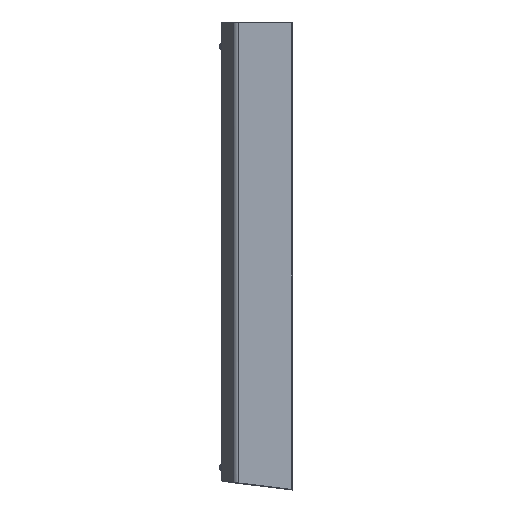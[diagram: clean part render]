
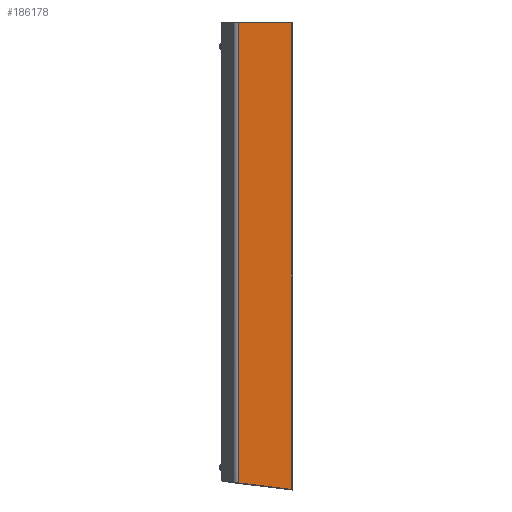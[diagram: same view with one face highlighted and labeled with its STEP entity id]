
A CAD part, left-side view. The second image highlights one B-rep face of the part: STEP entity #186178.
In plain terms, the highlighted planar face has unit normal (-1, 0, 0).
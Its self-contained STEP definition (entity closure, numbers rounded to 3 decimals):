
#36993 = FACE_OUTER_BOUND ( 'NONE', #264522, .T. ) ;
#59425 = LINE ( 'NONE', #256071, #59433 ) ;
#59433 = VECTOR ( 'NONE', #256063, 1000. ) ;
#79795 = AXIS2_PLACEMENT_3D ( 'NONE', #176183, #176186, #176190 ) ;
#84777 = LINE ( 'NONE', #107317, #84784 ) ;
#84784 = VECTOR ( 'NONE', #107342, 1000. ) ;
#97353 = EDGE_CURVE ( 'NONE', #194273, #262815, #84777, .T. ) ;
#99547 = EDGE_CURVE ( 'NONE', #192903, #194273, #114173, .T. ) ;
#100327 = EDGE_CURVE ( 'NONE', #192903, #259572, #59425, .T. ) ;
#102186 = EDGE_CURVE ( 'NONE', #259572, #262815, #195245, .T. ) ;
#107317 = CARTESIAN_POINT ( 'NONE',  ( -205., 0.043, -454. ) ) ;
#107342 = DIRECTION ( 'NONE',  ( 0., 0., 1. ) ) ;
#114173 = LINE ( 'NONE', #167765, #114184 ) ;
#114184 = VECTOR ( 'NONE', #167786, 1000. ) ;
#124801 = ORIENTED_EDGE ( 'NONE', *, *, #97353, .T. ) ;
#125311 = ORIENTED_EDGE ( 'NONE', *, *, #100327, .F. ) ;
#126171 = ORIENTED_EDGE ( 'NONE', *, *, #102186, .F. ) ;
#126878 = ORIENTED_EDGE ( 'NONE', *, *, #99547, .T. ) ;
#155852 = CARTESIAN_POINT ( 'NONE',  ( -205., 106.226, -458.96 ) ) ;
#156394 = CARTESIAN_POINT ( 'NONE',  ( -205., 0.043, -471.998 ) ) ;
#167765 = CARTESIAN_POINT ( 'NONE',  ( -205., -17.742, -474.181 ) ) ;
#167786 = DIRECTION ( 'NONE',  ( 0., -0.993, -0.122 ) ) ;
#176142 = PLANE ( 'NONE',  #79795 ) ;
#176183 = CARTESIAN_POINT ( 'NONE',  ( -205., 106.226, -454. ) ) ;
#176186 = DIRECTION ( 'NONE',  ( 1., 0., 0. ) ) ;
#176190 = DIRECTION ( 'NONE',  ( 0., -1., 0. ) ) ;
#179674 = CARTESIAN_POINT ( 'NONE',  ( -205., 106.226, 471.5 ) ) ;
#186178 = ADVANCED_FACE ( 'NONE', ( #36993 ), #176142, .F. ) ;
#192903 = VERTEX_POINT ( 'NONE', #155852 ) ;
#194273 = VERTEX_POINT ( 'NONE', #156394 ) ;
#195245 = LINE ( 'NONE', #227061, #195256 ) ;
#195256 = VECTOR ( 'NONE', #227068, 1000. ) ;
#220201 = CARTESIAN_POINT ( 'NONE',  ( -205., 0.043, 471.5 ) ) ;
#227061 = CARTESIAN_POINT ( 'NONE',  ( -205., 0.043, 471.5 ) ) ;
#227068 = DIRECTION ( 'NONE',  ( 0., -1., 0. ) ) ;
#256063 = DIRECTION ( 'NONE',  ( 0., 0., 1. ) ) ;
#256071 = CARTESIAN_POINT ( 'NONE',  ( -205., 106.226, -454. ) ) ;
#259572 = VERTEX_POINT ( 'NONE', #179674 ) ;
#262815 = VERTEX_POINT ( 'NONE', #220201 ) ;
#264522 = EDGE_LOOP ( 'NONE', ( #124801, #126171, #125311, #126878 ) ) ;
